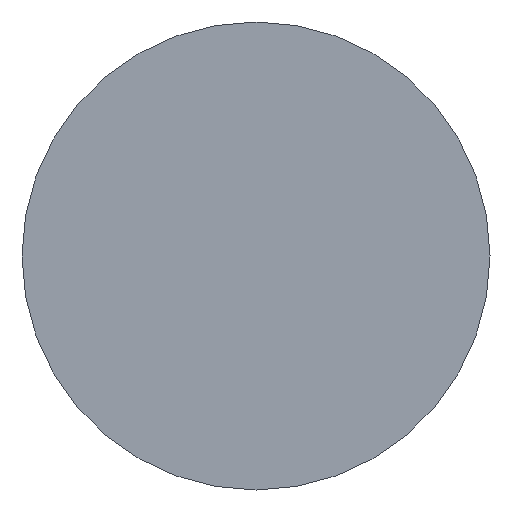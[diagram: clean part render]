
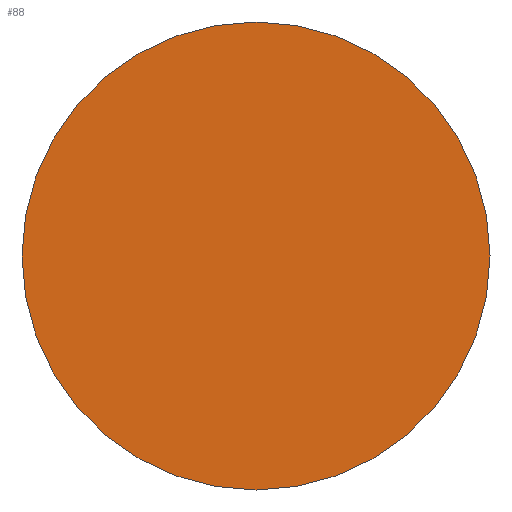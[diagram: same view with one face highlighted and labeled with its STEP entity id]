
A CAD part, front view. The second image highlights one B-rep face of the part: STEP entity #88.
In plain terms, the highlighted planar face has unit normal (0, -1, 0).
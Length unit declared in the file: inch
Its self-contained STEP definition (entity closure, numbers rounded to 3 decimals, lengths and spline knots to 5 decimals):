
#22=PLANE('',#113);
#28=FACE_OUTER_BOUND('',#35,.T.);
#35=EDGE_LOOP('',(#81));
#44=CIRCLE('',#112,0.25);
#51=VERTEX_POINT('',#236);
#61=EDGE_CURVE('',#51,#51,#44,.T.);
#81=ORIENTED_EDGE('',*,*,#61,.F.);
#88=ADVANCED_FACE('',(#28),#22,.F.);
#112=AXIS2_PLACEMENT_3D('',#238,#135,#136);
#113=AXIS2_PLACEMENT_3D('',#239,#137,#138);
#135=DIRECTION('center_axis',(0.,1.,0.));
#136=DIRECTION('ref_axis',(1.,0.,0.));
#137=DIRECTION('center_axis',(0.,1.,0.));
#138=DIRECTION('ref_axis',(1.,0.,0.));
#236=CARTESIAN_POINT('',(-0.25,0.,0.));
#238=CARTESIAN_POINT('Origin',(0.,0.,0.));
#239=CARTESIAN_POINT('Origin',(0.,0.,0.));
